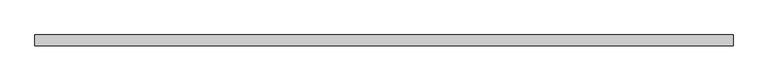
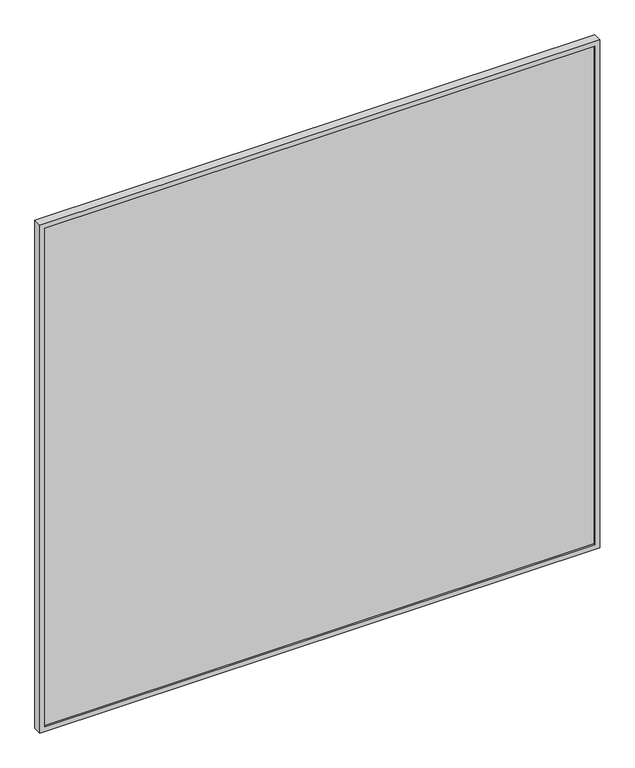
"""IFC4 building model written with IfcOpenShell, lengths in millimetres: plate geometry, ARQ-PA-IN-Vidrio Fijo Laminado  : ARQ-PA-IN-Vidrio Fijo Laminado ."""

from ifc_helpers import new_model, si_unit, frame, origin, place, context, project, spatial, polyline, outline, extrude, source, transform, mapped, element, save


def plate_9a7a51d2(model_context):
    return source(origin(), model_context, "Body", "SweptSolid", [
        extrude(outline(polyline([(1126.9998852, -10.0), (-1126.9998852, -10.0), (-1126.9998852, 10.0), (1126.9998852, 10.0), (1126.9998852, -10.0)])), frame((0.0, 0.0, 20.0), z_axis=(0.0, 0.0, 1.0), x_axis=(1.0, 0.0, 0.0)), (0.0, 0.0, 1.0), 2160.0),
        extrude(outline(polyline([(2200.0, -1146.9998852), (0.0, -1146.9998852), (0.0, 1146.9998852), (2200.0, 1146.9998852), (2200.0, -1146.9998852)]), holes=[polyline([(2180.0, -1126.9998852), (2180.0, 1126.9998852), (20.0, 1126.9998852), (20.0, -1126.9998852), (2180.0, -1126.9998852)])]), frame((0.0, -17.5, 0.0), z_axis=(0.0, 1.0, 0.0), x_axis=(0.0, 0.0, 1.0)), (0.0, 0.0, 1.0), 35.0),
    ])


if __name__ == "__main__":
    model = new_model("IFC4")
    model_context = context("Model", 3, world=origin())
    ifc_project = project(units=[si_unit("LENGTHUNIT", "METRE", prefix="MILLI")], contexts=[model_context])
    site = spatial("IfcSite", under=ifc_project)
    building = spatial("IfcBuilding", under=site)
    placement = place(None, origin())
    plate_shape = plate_9a7a51d2(model_context)
    element("IfcPlate", 1, ObjectType="ARQ-PA-IN-Vidrio Fijo Laminado  : ARQ-PA-IN-Vidrio Fijo Laminado ", at=placement, inside=building, context=model_context, shape_type="MappedRepresentation", body=[
        mapped(plate_shape, transform((0.0, 0.0, 0.0), x_axis=(1.0, 0.0, 0.0), y_axis=(0.0, 1.0, 0.0), z_axis=(0.0, 0.0, 1.0))),
    ])
    save(model, "model.ifc")
